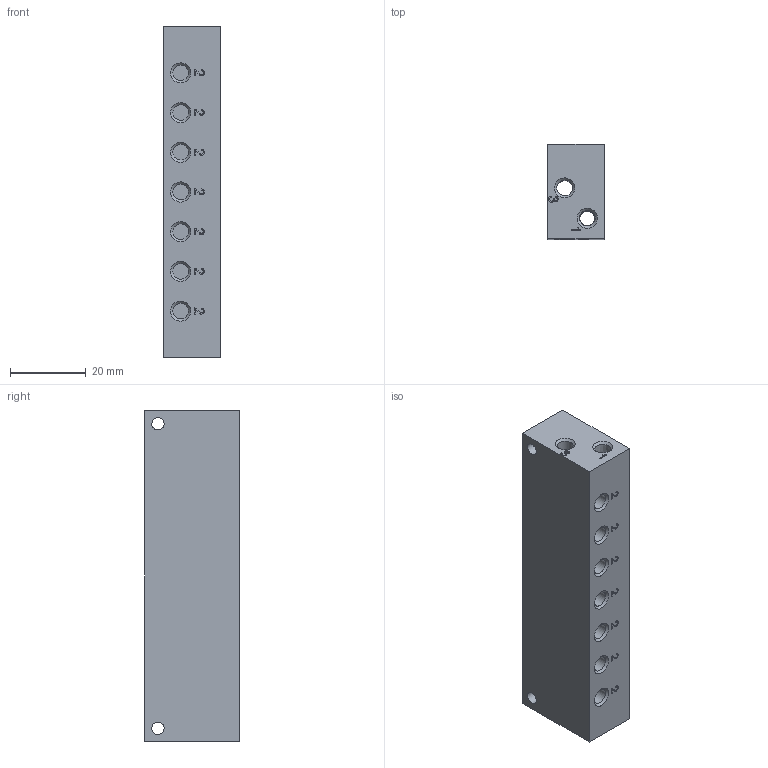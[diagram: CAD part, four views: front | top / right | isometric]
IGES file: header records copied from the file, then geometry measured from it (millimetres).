
Global section: file name: P395_07; native system: Autodesk Inventor 2014; preprocessor: unknown; date: 20160908.083137; units: millimetre
Bounding box: 15 x 25 x 87.5 mm (x, y, z)
Volume: 29324.4 mm3; surface area: 11040.3 mm2
Topology: 1 solids, 1 shells, 231 faces, 663 edges, 454 vertices
Faces by surface type: bspline 231
